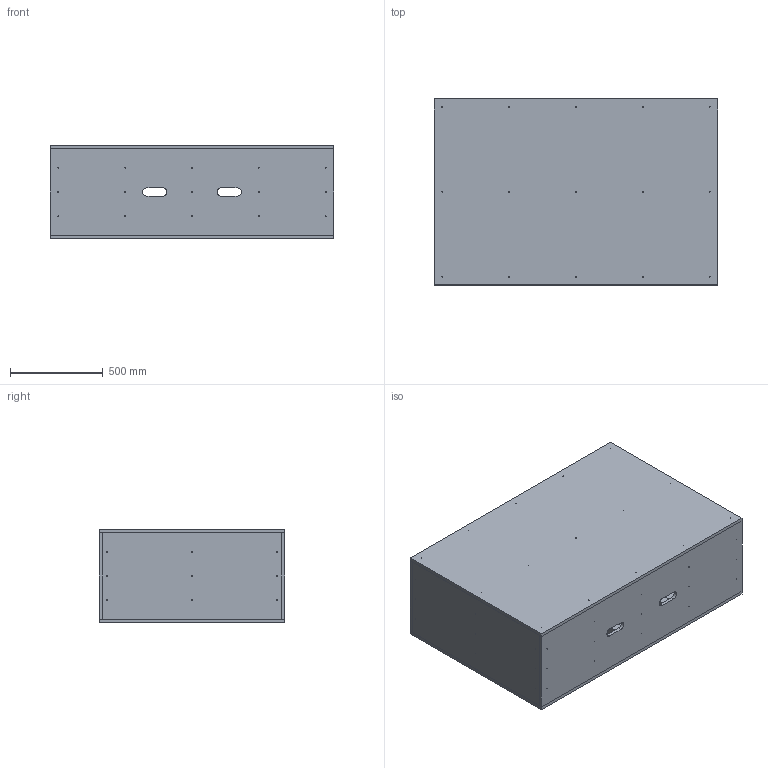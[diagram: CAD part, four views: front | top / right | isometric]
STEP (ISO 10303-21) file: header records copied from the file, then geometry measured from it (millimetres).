
FILE_DESCRIPTION(('Open CASCADE Model'),'2;1');
FILE_NAME('Open CASCADE Shape Model','2026-09-28T10:14:21',('Author'),( 'Open CASCADE'),'Open CASCADE STEP processor 7.9','Open CASCADE 7.9' ,'Unknown');
FILE_SCHEMA(('AUTOMOTIVE_DESIGN { 1 0 10303 214 1 1 1 1 }'));
Length unit declared in the file: millimetre
Products named in the file (38): box_500x1000x1525; bottom; top; front; back; end_left; end_right; post_0_0; post_0_1; post_0_2; post_1_0; post_1_1; post_1_2; post_2_0; post_2_1; post_2_2; post_3_0; post_3_1; post_3_2; post_4_0; post_4_1; post_4_2; cross_0_0; cross_0_1; cross_0_2; cross_0_3; cross_0_4; longitudinal_0_0; longitudinal_0_1; longitudinal_0_2; cross_1_0; cross_1_1; cross_1_2; cross_1_3; cross_1_4; longitudinal_1_0; longitudinal_1_1; longitudinal_1_2
Assembly tree (37 placements, depth 2):
  box_500x1000x1525
    bottom
    top
    front
    back
    end_left
    end_right
    post_0_0
    post_0_1
    post_0_2
    post_1_0
    post_1_1
    post_1_2
    post_2_0
    post_2_1
    post_2_2
    post_3_0
    post_3_1
    post_3_2
    post_4_0
    post_4_1
    post_4_2
    cross_0_0
    cross_0_1
    cross_0_2
    cross_0_3
    cross_0_4
    longitudinal_0_0
    longitudinal_0_1
    longitudinal_0_2
    cross_1_0
    cross_1_1
    cross_1_2
    cross_1_3
    cross_1_4
    longitudinal_1_0
    longitudinal_1_1
    longitudinal_1_2
Bounding box: 1525 x 1000 x 500 mm (x, y, z)
Volume: 156164453.1 mm3; surface area: 16098564.5 mm2
Topology: 37 solids, 37 shells, 316 faces, 726 edges, 484 vertices
Faces by surface type: plane 230, cylinder 86
Full cylindrical faces by diameter (mm): 2.5 x78
Entity records: 19538 total; most frequent: CARTESIAN_POINT 3048, DIRECTION 3026, LINE 1802, VECTOR 1802, ORIENTED_EDGE 1452, PCURVE 1452, DEFINITIONAL_REPRESENTATION 1452, EDGE_CURVE 726
